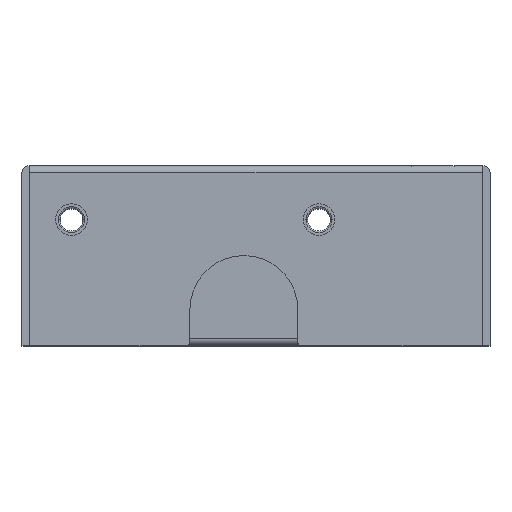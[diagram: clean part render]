
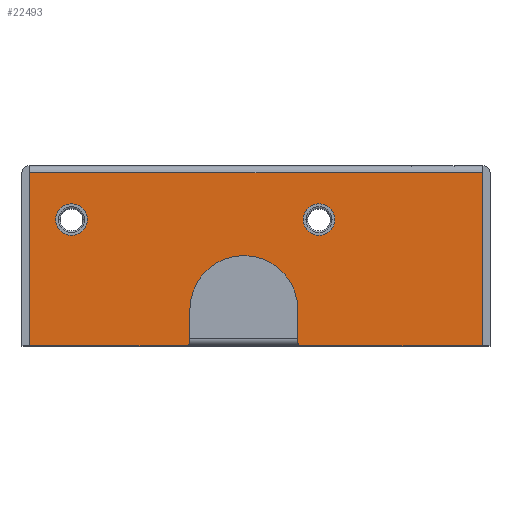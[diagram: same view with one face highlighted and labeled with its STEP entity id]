
A CAD part, top view. The second image highlights one B-rep face of the part: STEP entity #22493.
In plain terms, the highlighted planar face has unit normal (0, 0, 1) as drawn and (1, 0, 0) by its records, which use the part's own axes.
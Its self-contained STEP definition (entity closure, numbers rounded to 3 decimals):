
#21158=CARTESIAN_POINT('',(27.5,-14.,-18.));
#21159=DIRECTION('',(-1.,0.,0.));
#21160=DIRECTION('',(0.,0.,-1.));
#21161=AXIS2_PLACEMENT_3D('',#21158,#21159,#21160);
#21163=CARTESIAN_POINT('',(27.5,-14.,-18.));
#21164=DIRECTION('',(-1.,0.,0.));
#21165=DIRECTION('',(0.,0.,1.));
#21166=AXIS2_PLACEMENT_3D('',#21163,#21164,#21165);
#21168=CARTESIAN_POINT('',(27.5,-14.,9.5));
#21169=DIRECTION('',(-1.,0.,0.));
#21170=DIRECTION('',(0.,0.,-1.));
#21171=AXIS2_PLACEMENT_3D('',#21168,#21169,#21170);
#21173=CARTESIAN_POINT('',(27.5,-14.,9.5));
#21174=DIRECTION('',(-1.,0.,0.));
#21175=DIRECTION('',(0.,0.,1.));
#21176=AXIS2_PLACEMENT_3D('',#21173,#21174,#21175);
#21200=CARTESIAN_POINT('',(27.5,-0.3,7.45));
#21201=DIRECTION('',(1.,0.,0.));
#21202=DIRECTION('',(0.,0.,-1.));
#21203=AXIS2_PLACEMENT_3D('',#21200,#21201,#21202);
#21205=DIRECTION('',(0.,1.,0.));
#21206=VECTOR('',#21205,3.7);
#21207=CARTESIAN_POINT('',(27.5,-4.,7.15));
#21208=LINE('',#21207,#21206);
#21209=CARTESIAN_POINT('',(27.5,-4.,1.15));
#21210=DIRECTION('',(-1.,0.,0.));
#21211=DIRECTION('',(0.,0.,-1.));
#21212=AXIS2_PLACEMENT_3D('',#21209,#21210,#21211);
#21214=DIRECTION('',(0.,1.,0.));
#21215=VECTOR('',#21214,3.7);
#21216=CARTESIAN_POINT('',(27.5,-4.,-4.85));
#21217=LINE('',#21216,#21215);
#21218=CARTESIAN_POINT('',(27.5,-0.3,-5.15));
#21219=DIRECTION('',(1.,0.,0.));
#21220=DIRECTION('',(0.,1.,0.));
#21221=AXIS2_PLACEMENT_3D('',#21218,#21219,#21220);
#21223=DIRECTION('',(0.,-1.,0.));
#21224=VECTOR('',#21223,19.2);
#21225=CARTESIAN_POINT('',(27.5,0.,-22.65));
#21226=LINE('',#21225,#21224);
#21227=DIRECTION('',(0.,0.,1.));
#21228=VECTOR('',#21227,50.3);
#21229=CARTESIAN_POINT('',(27.5,-19.2,-22.65));
#21230=LINE('',#21229,#21228);
#21231=DIRECTION('',(0.,-1.,0.));
#21232=VECTOR('',#21231,19.2);
#21233=CARTESIAN_POINT('',(27.5,0.,27.65));
#21234=LINE('',#21233,#21232);
#21591=DIRECTION('',(0.,0.,1.));
#21592=VECTOR('',#21591,20.2);
#21593=CARTESIAN_POINT('',(27.5,0.,7.45));
#21594=LINE('',#21593,#21592);
#21615=DIRECTION('',(0.,0.,1.));
#21616=VECTOR('',#21615,17.5);
#21617=CARTESIAN_POINT('',(27.5,0.,-22.65));
#21618=LINE('',#21617,#21616);
#22081=CARTESIAN_POINT('',(27.5,-14.,-19.75));
#22082=CARTESIAN_POINT('',(27.5,-14.,-16.25));
#22083=VERTEX_POINT('',#22081);
#22084=VERTEX_POINT('',#22082);
#22085=CARTESIAN_POINT('',(27.5,-14.,7.75));
#22086=CARTESIAN_POINT('',(27.5,-14.,11.25));
#22087=VERTEX_POINT('',#22085);
#22088=VERTEX_POINT('',#22086);
#22089=CARTESIAN_POINT('',(27.5,-4.,-4.85));
#22090=CARTESIAN_POINT('',(27.5,-4.,7.15));
#22091=VERTEX_POINT('',#22089);
#22092=VERTEX_POINT('',#22090);
#22149=CARTESIAN_POINT('',(27.5,0.,27.65));
#22151=VERTEX_POINT('',#22149);
#22153=CARTESIAN_POINT('',(27.5,0.,-22.65));
#22155=VERTEX_POINT('',#22153);
#22174=CARTESIAN_POINT('',(27.5,-19.2,27.65));
#22176=VERTEX_POINT('',#22174);
#22177=CARTESIAN_POINT('',(27.5,-19.2,-22.65));
#22178=VERTEX_POINT('',#22177);
#22241=CARTESIAN_POINT('',(27.5,-0.3,7.15));
#22242=VERTEX_POINT('',#22241);
#22243=CARTESIAN_POINT('',(27.5,0.,7.45));
#22244=VERTEX_POINT('',#22243);
#22245=CARTESIAN_POINT('',(27.5,0.,-5.15));
#22246=CARTESIAN_POINT('',(27.5,-0.3,-4.85));
#22247=VERTEX_POINT('',#22245);
#22248=VERTEX_POINT('',#22246);
#22455=CARTESIAN_POINT('',(27.5,0.,-23.5));
#22456=DIRECTION('',(1.,0.,0.));
#22457=DIRECTION('',(0.,0.,1.));
#22458=AXIS2_PLACEMENT_3D('',#22455,#22456,#22457);
#22459=PLANE('',#22458);
#22461=ORIENTED_EDGE('',*,*,#22460,.F.);
#22463=ORIENTED_EDGE('',*,*,#22462,.F.);
#22465=ORIENTED_EDGE('',*,*,#22464,.F.);
#22467=ORIENTED_EDGE('',*,*,#22466,.T.);
#22469=ORIENTED_EDGE('',*,*,#22468,.F.);
#22471=ORIENTED_EDGE('',*,*,#22470,.F.);
#22473=ORIENTED_EDGE('',*,*,#22472,.T.);
#22475=ORIENTED_EDGE('',*,*,#22474,.T.);
#22477=ORIENTED_EDGE('',*,*,#22476,.F.);
#22479=ORIENTED_EDGE('',*,*,#22478,.F.);
#22480=EDGE_LOOP('',(#22461,#22463,#22465,#22467,#22469,#22471,#22473,#22475,
#22477,#22479));
#22481=FACE_OUTER_BOUND('',#22480,.F.);
#22482=ORIENTED_EDGE('',*,*,#22413,.F.);
#22484=ORIENTED_EDGE('',*,*,#22483,.F.);
#22485=EDGE_LOOP('',(#22482,#22484));
#22486=FACE_BOUND('',#22485,.F.);
#22488=ORIENTED_EDGE('',*,*,#22487,.F.);
#22490=ORIENTED_EDGE('',*,*,#22489,.F.);
#22491=EDGE_LOOP('',(#22488,#22490));
#22492=FACE_BOUND('',#22491,.F.);
#22493=ADVANCED_FACE('',(#22481,#22486,#22492),#22459,.T.);
#21162=CIRCLE('',#21161,1.75);
#21167=CIRCLE('',#21166,1.75);
#21172=CIRCLE('',#21171,1.75);
#21177=CIRCLE('',#21176,1.75);
#21204=CIRCLE('',#21203,0.3);
#21213=CIRCLE('',#21212,6.);
#21222=CIRCLE('',#21221,0.3);
#22413=EDGE_CURVE('',#22083,#22084,#21162,.T.);
#22460=EDGE_CURVE('',#22242,#22244,#21204,.T.);
#22462=EDGE_CURVE('',#22092,#22242,#21208,.T.);
#22464=EDGE_CURVE('',#22091,#22092,#21213,.T.);
#22466=EDGE_CURVE('',#22091,#22248,#21217,.T.);
#22468=EDGE_CURVE('',#22247,#22248,#21222,.T.);
#22470=EDGE_CURVE('',#22155,#22247,#21618,.T.);
#22472=EDGE_CURVE('',#22155,#22178,#21226,.T.);
#22474=EDGE_CURVE('',#22178,#22176,#21230,.T.);
#22476=EDGE_CURVE('',#22151,#22176,#21234,.T.);
#22478=EDGE_CURVE('',#22244,#22151,#21594,.T.);
#22483=EDGE_CURVE('',#22084,#22083,#21167,.T.);
#22487=EDGE_CURVE('',#22087,#22088,#21172,.T.);
#22489=EDGE_CURVE('',#22088,#22087,#21177,.T.);
